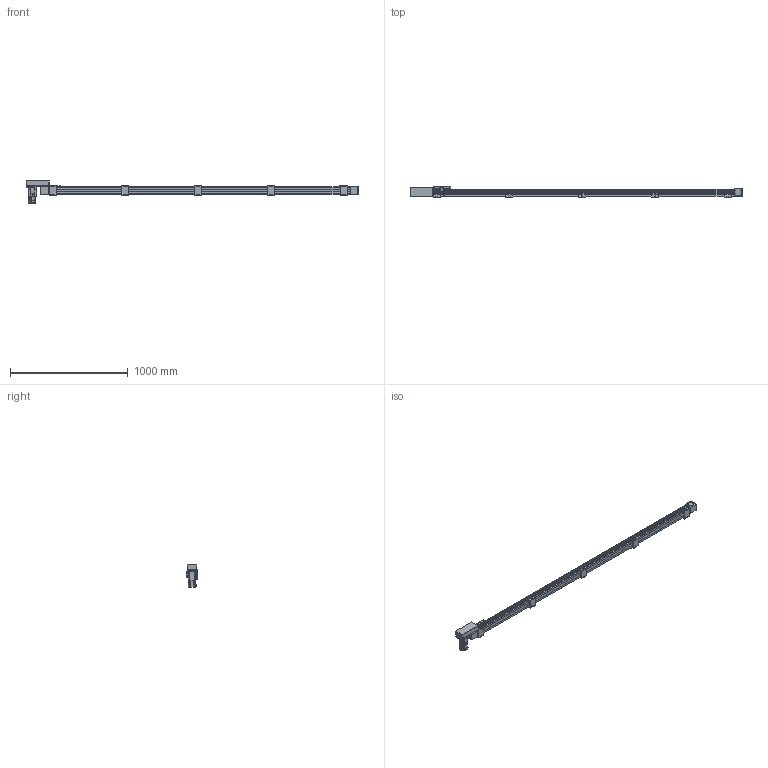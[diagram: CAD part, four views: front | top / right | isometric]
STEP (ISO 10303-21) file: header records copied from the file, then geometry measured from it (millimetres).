
FILE_DESCRIPTION(/* description */ ('STEP AP214'),/* implementation_level */ '2;1');
FILE_NAME(/* name */ 'SK60-P13-S2400-R-T40-C1-N(0)',/* time_stamp */ '2023-04-06T04:28:29+02:00',/* author */ ('License CC BY-ND 4.0'),/* organization */ ('CADENAS'),/* preprocessor_version */ 'ST-DEVELOPER v19.3',/* originating_system */ 'PARTsolutions',/* authorisation */ ' ');
FILE_SCHEMA (('AUTOMOTIVE_DESIGN {1 0 10303 214 3 1 1}'));
Length unit declared in the file: millimetre
Products named in the file (10): SK60-P13-S2400-R-T40-C1-N(0); PSC140-sensor; SK60-S450_seat; SK60-S450-BL-C1_slider; SK60_body3; SK60_body6; SK60-BL_body2; T40-p1; SK60-R_fb; SK60-S2400-R-C1_body
Assembly tree (19 placements, depth 2):
  SK60-P13-S2400-R-T40-C1-N(0)
    PSC140-sensor  x3
    SK60-S450_seat  x5
    SK60-S450-BL-C1_slider
    SK60_body3  x3
    SK60_body6  x2
    SK60-BL_body2  x2
    T40-p1
    SK60-R_fb
    SK60-S2400-R-C1_body
Bounding box: 2820.5 x 90 x 189.7 mm (x, y, z)
Volume: 10366280.2 mm3; surface area: 1222768.3 mm2
Topology: 19 solids, 19 shells, 942 faces, 2342 edges, 1541 vertices
Faces by surface type: plane 596, cylinder 310, cone 34, torus 2
Full cylindrical faces by diameter (mm): 2.8 x3, 3.3 x4, 4 x2, 4.5 x30, 4.6 x3, 4.917 x28, 5 x6, 5.478 x4, 5.5 x31, 6.5 x10, 7 x2, 8 x4, 8.5 x4, 9.988 x4, 10 x20, 14 x1, 47 x3, 50 x2
Entity records: 18679 total; most frequent: DIRECTION 3190, CARTESIAN_POINT 3153, ORIENTED_EDGE 2940, EDGE_CURVE 1470, AXIS2_PLACEMENT_3D 1071, LINE 1048, VECTOR 1048, VERTEX_POINT 1034
